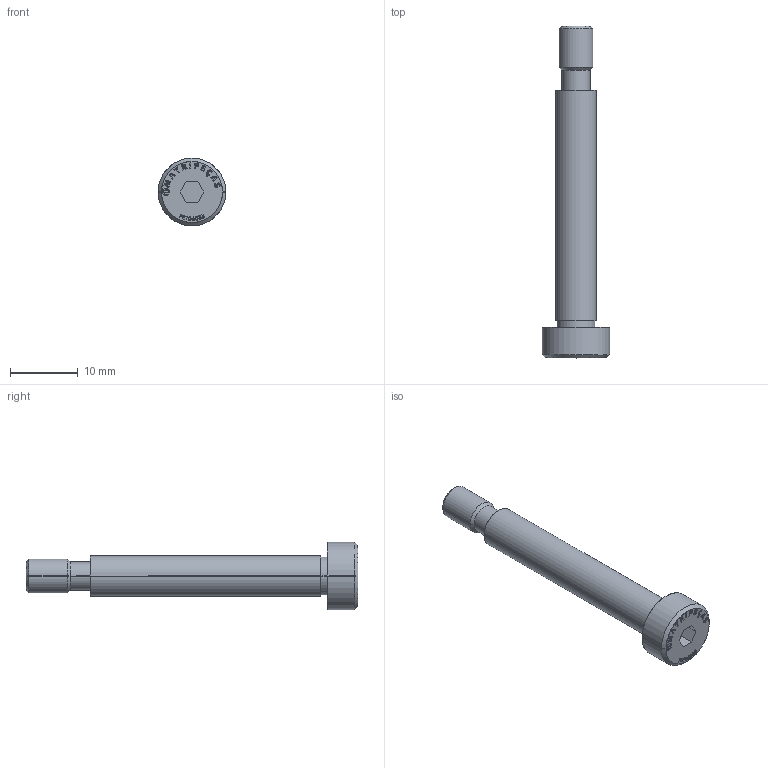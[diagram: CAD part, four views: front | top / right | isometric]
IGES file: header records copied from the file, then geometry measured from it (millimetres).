
Start section: SolidWorks IGES file using analytic representation for surfaces
Global section: file name: D:\Cleonir_arquivos\MT_15_07\Parafusos de Corpo Retificado\PRT06035.igs; native system: SolidWorks 2013; preprocessor: SolidWorks 2013; author: Cleonir; date: 130730.134343; units: millimetre
Bounding box: 10 x 49 x 10 mm (x, y, z)
Surface area: 1122.9 mm2 (no closed solid volume)
Topology: 0 solids, 0 shells, 308 faces, 3067 edges, 3067 vertices
Faces by surface type: bspline 281, revolution 27
